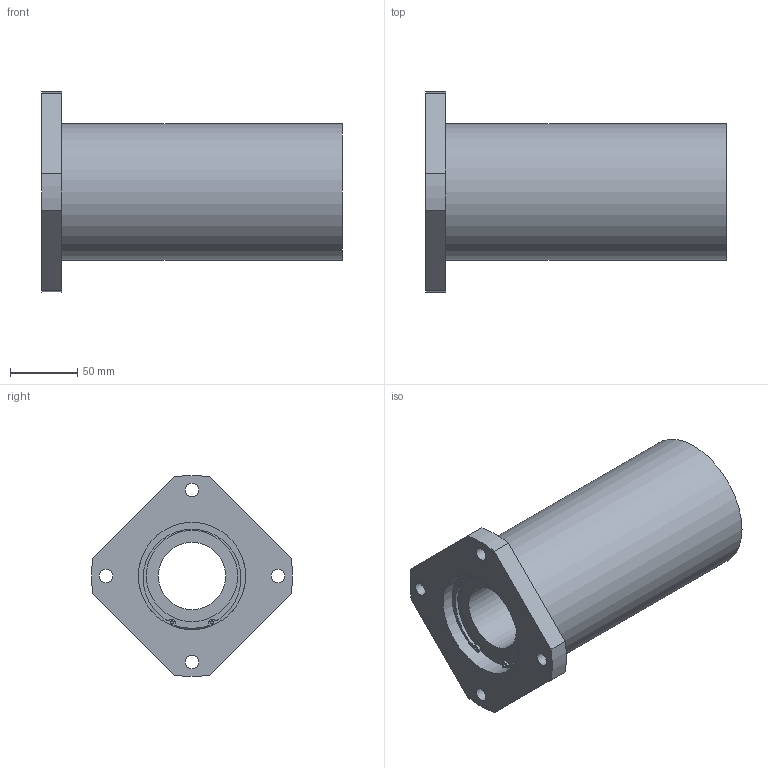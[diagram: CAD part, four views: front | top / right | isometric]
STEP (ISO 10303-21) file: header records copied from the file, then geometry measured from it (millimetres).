
FILE_DESCRIPTION((''),'2;1');
FILE_NAME('D:\製品 (図面)\カタログ用3D\リニアベアリング関連(改)\STEP形式\LFWK\LFWK50.stp','2010-01-22T16:00:31',('Tsuchiya'),(''),'Autodesk Inventor 10','Autodesk Inventor 10','');
FILE_SCHEMA(('AUTOMOTIVE_DESIGN { 1 0 10303 214 1 1 1 1 }'));
Length unit declared in the file: millimetre
Products named in the file (1): LFWK50
Bounding box: 224 x 149.71 x 149.71 mm (x, y, z)
Volume: 1408068.9 mm3; surface area: 154661.5 mm2
Topology: 1 solids, 6 shells, 76 faces, 172 edges, 113 vertices
Faces by surface type: cylinder 28, bspline 26, plane 20, torus 2
Full cylindrical faces by diameter (mm): 2.5 x2, 10.106 x4, 50 x1, 68 x2, 76.5 x2, 80 x7, 102 x1
Entity records: 2202 total; most frequent: CARTESIAN_POINT 625, DIRECTION 320, ORIENTED_EDGE 262, AXIS2_PLACEMENT_3D 138, EDGE_LOOP 136, EDGE_CURVE 131, VERTEX_POINT 103, CIRCLE 87
